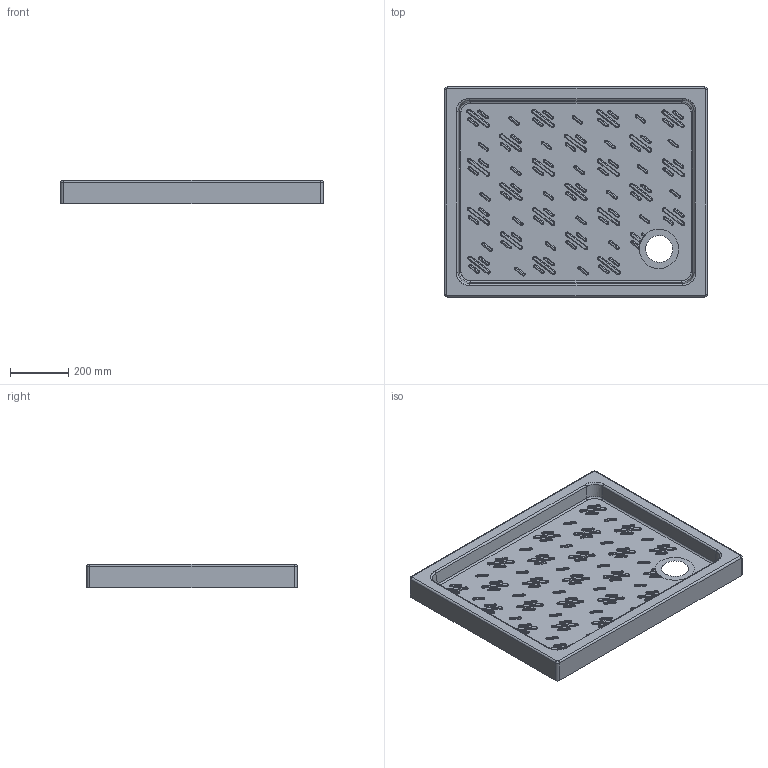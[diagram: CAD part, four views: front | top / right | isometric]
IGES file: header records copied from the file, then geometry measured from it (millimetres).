
Start section: START RECORD GO HERE.
Global section: file name: 1006_3D.igs; native system: DASSAULT SYSTEMES CATIA V5 R19 - www.3ds.com; preprocessor: CATIA Version 5 Release 19 SP 5 ; author: gioge; organization: LAPTOP-G94B6G74; date: 20201022.151507; units: millimetre
Bounding box: 900 x 720 x 80 mm (x, y, z)
Surface area: 1040413.9 mm2 (no closed solid volume)
Topology: 0 solids, 0 shells, 1000 faces, 5056 edges, 5050 vertices
Faces by surface type: revolution 879, plane 101, bspline 20
